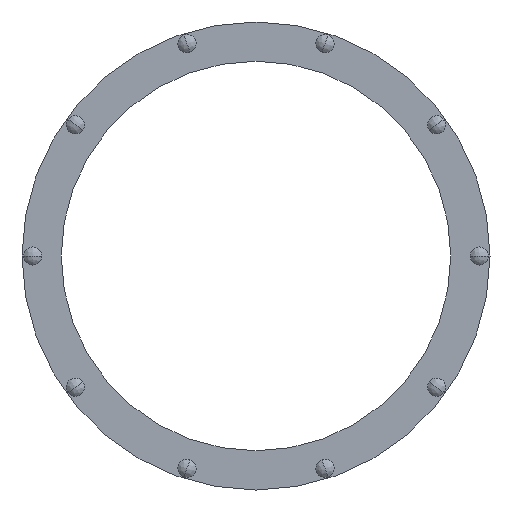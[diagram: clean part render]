
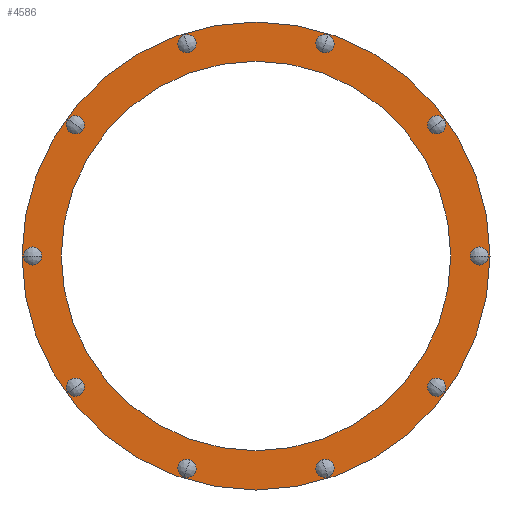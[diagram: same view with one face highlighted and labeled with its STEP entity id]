
A CAD part, front view. The second image highlights one B-rep face of the part: STEP entity #4586.
In plain terms, the highlighted planar face has unit normal (0, -1, 0).
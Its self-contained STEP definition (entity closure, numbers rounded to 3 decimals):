
#1613=CARTESIAN_POINT('',(0.,-151.,0.));
#1614=DIRECTION('',(0.,-1.,0.));
#1615=DIRECTION('',(-1.,0.,0.));
#1616=AXIS2_PLACEMENT_3D('',#1613,#1614,#1615);
#1622=CARTESIAN_POINT('',(0.,-151.,0.));
#1623=DIRECTION('',(0.,1.,0.));
#1624=DIRECTION('',(-1.,0.,0.));
#1625=AXIS2_PLACEMENT_3D('',#1622,#1623,#1624);
#1631=CARTESIAN_POINT('',(0.,-151.,0.));
#1632=DIRECTION('',(0.,-1.,0.));
#1633=DIRECTION('',(-1.,0.,0.));
#1634=AXIS2_PLACEMENT_3D('',#1631,#1632,#1633);
#1636=CARTESIAN_POINT('',(0.,-151.,0.));
#1637=DIRECTION('',(0.,1.,0.));
#1638=DIRECTION('',(-1.,0.,0.));
#1639=AXIS2_PLACEMENT_3D('',#1636,#1637,#1638);
#1641=CARTESIAN_POINT('',(-313.,-151.,0.));
#1642=DIRECTION('',(0.,1.,0.));
#1643=DIRECTION('',(-1.,0.,0.));
#1644=AXIS2_PLACEMENT_3D('',#1641,#1642,#1643);
#1646=CARTESIAN_POINT('',(-313.,-151.,0.));
#1647=DIRECTION('',(0.,1.,0.));
#1648=DIRECTION('',(1.,0.,0.));
#1649=AXIS2_PLACEMENT_3D('',#1646,#1647,#1648);
#1651=CARTESIAN_POINT('',(-253.222,-151.,-183.977));
#1652=DIRECTION('',(0.,1.,0.));
#1653=DIRECTION('',(-0.809,0.,-0.588));
#1654=AXIS2_PLACEMENT_3D('',#1651,#1652,#1653);
#1656=CARTESIAN_POINT('',(-253.222,-151.,-183.977));
#1657=DIRECTION('',(0.,1.,0.));
#1658=DIRECTION('',(0.809,0.,0.588));
#1659=AXIS2_PLACEMENT_3D('',#1656,#1657,#1658);
#1661=CARTESIAN_POINT('',(-96.722,-151.,-297.681));
#1662=DIRECTION('',(0.,1.,0.));
#1663=DIRECTION('',(-0.309,0.,-0.951));
#1664=AXIS2_PLACEMENT_3D('',#1661,#1662,#1663);
#1666=CARTESIAN_POINT('',(-96.722,-151.,-297.681));
#1667=DIRECTION('',(0.,1.,0.));
#1668=DIRECTION('',(0.309,0.,0.951));
#1669=AXIS2_PLACEMENT_3D('',#1666,#1667,#1668);
#1671=CARTESIAN_POINT('',(96.722,-151.,-297.681));
#1672=DIRECTION('',(0.,1.,0.));
#1673=DIRECTION('',(0.309,0.,-0.951));
#1674=AXIS2_PLACEMENT_3D('',#1671,#1672,#1673);
#1676=CARTESIAN_POINT('',(96.722,-151.,-297.681));
#1677=DIRECTION('',(0.,1.,0.));
#1678=DIRECTION('',(-0.309,0.,0.951));
#1679=AXIS2_PLACEMENT_3D('',#1676,#1677,#1678);
#1681=CARTESIAN_POINT('',(253.222,-151.,-183.977));
#1682=DIRECTION('',(0.,1.,0.));
#1683=DIRECTION('',(0.809,0.,-0.588));
#1684=AXIS2_PLACEMENT_3D('',#1681,#1682,#1683);
#1686=CARTESIAN_POINT('',(253.222,-151.,-183.977));
#1687=DIRECTION('',(0.,1.,0.));
#1688=DIRECTION('',(-0.809,0.,0.588));
#1689=AXIS2_PLACEMENT_3D('',#1686,#1687,#1688);
#1691=CARTESIAN_POINT('',(313.,-151.,0.));
#1692=DIRECTION('',(0.,1.,0.));
#1693=DIRECTION('',(1.,0.,0.));
#1694=AXIS2_PLACEMENT_3D('',#1691,#1692,#1693);
#1696=CARTESIAN_POINT('',(313.,-151.,0.));
#1697=DIRECTION('',(0.,1.,0.));
#1698=DIRECTION('',(-1.,0.,0.));
#1699=AXIS2_PLACEMENT_3D('',#1696,#1697,#1698);
#1701=CARTESIAN_POINT('',(253.222,-151.,183.977));
#1702=DIRECTION('',(0.,1.,0.));
#1703=DIRECTION('',(0.809,0.,0.588));
#1704=AXIS2_PLACEMENT_3D('',#1701,#1702,#1703);
#1706=CARTESIAN_POINT('',(253.222,-151.,183.977));
#1707=DIRECTION('',(0.,1.,0.));
#1708=DIRECTION('',(-0.809,0.,-0.588));
#1709=AXIS2_PLACEMENT_3D('',#1706,#1707,#1708);
#1711=CARTESIAN_POINT('',(96.722,-151.,297.681));
#1712=DIRECTION('',(0.,1.,0.));
#1713=DIRECTION('',(0.309,0.,0.951));
#1714=AXIS2_PLACEMENT_3D('',#1711,#1712,#1713);
#1716=CARTESIAN_POINT('',(96.722,-151.,297.681));
#1717=DIRECTION('',(0.,1.,0.));
#1718=DIRECTION('',(-0.309,0.,-0.951));
#1719=AXIS2_PLACEMENT_3D('',#1716,#1717,#1718);
#1721=CARTESIAN_POINT('',(-96.722,-151.,297.681));
#1722=DIRECTION('',(0.,1.,0.));
#1723=DIRECTION('',(-0.309,0.,0.951));
#1724=AXIS2_PLACEMENT_3D('',#1721,#1722,#1723);
#1726=CARTESIAN_POINT('',(-96.722,-151.,297.681));
#1727=DIRECTION('',(0.,1.,0.));
#1728=DIRECTION('',(0.309,0.,-0.951));
#1729=AXIS2_PLACEMENT_3D('',#1726,#1727,#1728);
#1731=CARTESIAN_POINT('',(-253.222,-151.,183.977));
#1732=DIRECTION('',(0.,1.,0.));
#1733=DIRECTION('',(-0.809,0.,0.588));
#1734=AXIS2_PLACEMENT_3D('',#1731,#1732,#1733);
#1736=CARTESIAN_POINT('',(-253.222,-151.,183.977));
#1737=DIRECTION('',(0.,1.,0.));
#1738=DIRECTION('',(0.809,0.,-0.588));
#1739=AXIS2_PLACEMENT_3D('',#1736,#1737,#1738);
#3239=CARTESIAN_POINT('',(-328.,-151.,0.));
#3241=VERTEX_POINT('',#3239);
#3242=CARTESIAN_POINT('',(-273.,-151.,0.));
#3244=VERTEX_POINT('',#3242);
#3257=CARTESIAN_POINT('',(328.,-151.,0.));
#3259=VERTEX_POINT('',#3257);
#3260=CARTESIAN_POINT('',(273.,-151.,0.));
#3262=VERTEX_POINT('',#3260);
#3330=CARTESIAN_POINT('',(-325.75,-151.,0.));
#3331=VERTEX_POINT('',#3330);
#3332=CARTESIAN_POINT('',(-300.25,-151.,0.));
#3333=VERTEX_POINT('',#3332);
#3372=CARTESIAN_POINT('',(-263.537,-151.,-191.471));
#3373=VERTEX_POINT('',#3372);
#3374=CARTESIAN_POINT('',(-242.907,-151.,-176.483));
#3375=VERTEX_POINT('',#3374);
#3414=CARTESIAN_POINT('',(-100.662,-151.,-309.807));
#3415=VERTEX_POINT('',#3414);
#3416=CARTESIAN_POINT('',(-92.782,-151.,-285.555));
#3417=VERTEX_POINT('',#3416);
#3456=CARTESIAN_POINT('',(100.662,-151.,-309.807));
#3457=VERTEX_POINT('',#3456);
#3458=CARTESIAN_POINT('',(92.782,-151.,-285.555));
#3459=VERTEX_POINT('',#3458);
#3498=CARTESIAN_POINT('',(263.537,-151.,-191.471));
#3499=VERTEX_POINT('',#3498);
#3500=CARTESIAN_POINT('',(242.907,-151.,-176.483));
#3501=VERTEX_POINT('',#3500);
#3540=CARTESIAN_POINT('',(325.75,-151.,0.));
#3541=VERTEX_POINT('',#3540);
#3542=CARTESIAN_POINT('',(300.25,-151.,0.));
#3543=VERTEX_POINT('',#3542);
#3602=CARTESIAN_POINT('',(263.537,-151.,191.471));
#3603=VERTEX_POINT('',#3602);
#3604=CARTESIAN_POINT('',(242.907,-151.,176.483));
#3605=VERTEX_POINT('',#3604);
#3644=CARTESIAN_POINT('',(100.662,-151.,309.807));
#3645=VERTEX_POINT('',#3644);
#3646=CARTESIAN_POINT('',(92.782,-151.,285.555));
#3647=VERTEX_POINT('',#3646);
#3686=CARTESIAN_POINT('',(-100.662,-151.,309.807));
#3687=VERTEX_POINT('',#3686);
#3688=CARTESIAN_POINT('',(-92.782,-151.,285.555));
#3689=VERTEX_POINT('',#3688);
#3728=CARTESIAN_POINT('',(-263.537,-151.,191.471));
#3729=VERTEX_POINT('',#3728);
#3730=CARTESIAN_POINT('',(-242.907,-151.,176.483));
#3731=VERTEX_POINT('',#3730);
#4511=CARTESIAN_POINT('',(0.,-151.,0.));
#4512=DIRECTION('',(0.,-1.,0.));
#4513=DIRECTION('',(-1.,0.,0.));
#4514=AXIS2_PLACEMENT_3D('',#4511,#4512,#4513);
#4515=PLANE('',#4514);
#4517=ORIENTED_EDGE('',*,*,#4516,.F.);
#4519=ORIENTED_EDGE('',*,*,#4518,.T.);
#4520=EDGE_LOOP('',(#4517,#4519));
#4521=FACE_OUTER_BOUND('',#4520,.F.);
#4522=ORIENTED_EDGE('',*,*,#4504,.F.);
#4523=ORIENTED_EDGE('',*,*,#4493,.T.);
#4524=EDGE_LOOP('',(#4522,#4523));
#4525=FACE_BOUND('',#4524,.F.);
#4527=ORIENTED_EDGE('',*,*,#4526,.F.);
#4529=ORIENTED_EDGE('',*,*,#4528,.F.);
#4530=EDGE_LOOP('',(#4527,#4529));
#4531=FACE_BOUND('',#4530,.F.);
#4533=ORIENTED_EDGE('',*,*,#4532,.F.);
#4535=ORIENTED_EDGE('',*,*,#4534,.F.);
#4536=EDGE_LOOP('',(#4533,#4535));
#4537=FACE_BOUND('',#4536,.F.);
#4539=ORIENTED_EDGE('',*,*,#4538,.F.);
#4541=ORIENTED_EDGE('',*,*,#4540,.F.);
#4542=EDGE_LOOP('',(#4539,#4541));
#4543=FACE_BOUND('',#4542,.F.);
#4545=ORIENTED_EDGE('',*,*,#4544,.F.);
#4547=ORIENTED_EDGE('',*,*,#4546,.F.);
#4548=EDGE_LOOP('',(#4545,#4547));
#4549=FACE_BOUND('',#4548,.F.);
#4551=ORIENTED_EDGE('',*,*,#4550,.F.);
#4553=ORIENTED_EDGE('',*,*,#4552,.F.);
#4554=EDGE_LOOP('',(#4551,#4553));
#4555=FACE_BOUND('',#4554,.F.);
#4557=ORIENTED_EDGE('',*,*,#4556,.F.);
#4559=ORIENTED_EDGE('',*,*,#4558,.F.);
#4560=EDGE_LOOP('',(#4557,#4559));
#4561=FACE_BOUND('',#4560,.F.);
#4563=ORIENTED_EDGE('',*,*,#4562,.F.);
#4565=ORIENTED_EDGE('',*,*,#4564,.F.);
#4566=EDGE_LOOP('',(#4563,#4565));
#4567=FACE_BOUND('',#4566,.F.);
#4569=ORIENTED_EDGE('',*,*,#4568,.F.);
#4571=ORIENTED_EDGE('',*,*,#4570,.F.);
#4572=EDGE_LOOP('',(#4569,#4571));
#4573=FACE_BOUND('',#4572,.F.);
#4575=ORIENTED_EDGE('',*,*,#4574,.F.);
#4577=ORIENTED_EDGE('',*,*,#4576,.F.);
#4578=EDGE_LOOP('',(#4575,#4577));
#4579=FACE_BOUND('',#4578,.F.);
#4581=ORIENTED_EDGE('',*,*,#4580,.F.);
#4583=ORIENTED_EDGE('',*,*,#4582,.F.);
#4584=EDGE_LOOP('',(#4581,#4583));
#4585=FACE_BOUND('',#4584,.F.);
#4586=ADVANCED_FACE('',(#4521,#4525,#4531,#4537,#4543,#4549,#4555,#4561,#4567,
#4573,#4579,#4585),#4515,.T.);
#1617=CIRCLE('',#1616,273.);
#1626=CIRCLE('',#1625,273.);
#1635=CIRCLE('',#1634,328.);
#1640=CIRCLE('',#1639,328.);
#1645=CIRCLE('',#1644,12.75);
#1650=CIRCLE('',#1649,12.75);
#1655=CIRCLE('',#1654,12.75);
#1660=CIRCLE('',#1659,12.75);
#1665=CIRCLE('',#1664,12.75);
#1670=CIRCLE('',#1669,12.75);
#1675=CIRCLE('',#1674,12.75);
#1680=CIRCLE('',#1679,12.75);
#1685=CIRCLE('',#1684,12.75);
#1690=CIRCLE('',#1689,12.75);
#1695=CIRCLE('',#1694,12.75);
#1700=CIRCLE('',#1699,12.75);
#1705=CIRCLE('',#1704,12.75);
#1710=CIRCLE('',#1709,12.75);
#1715=CIRCLE('',#1714,12.75);
#1720=CIRCLE('',#1719,12.75);
#1725=CIRCLE('',#1724,12.75);
#1730=CIRCLE('',#1729,12.75);
#1735=CIRCLE('',#1734,12.75);
#1740=CIRCLE('',#1739,12.75);
#4493=EDGE_CURVE('',#3244,#3262,#1617,.T.);
#4504=EDGE_CURVE('',#3244,#3262,#1626,.T.);
#4516=EDGE_CURVE('',#3241,#3259,#1635,.T.);
#4518=EDGE_CURVE('',#3241,#3259,#1640,.T.);
#4526=EDGE_CURVE('',#3331,#3333,#1645,.T.);
#4528=EDGE_CURVE('',#3333,#3331,#1650,.T.);
#4532=EDGE_CURVE('',#3373,#3375,#1655,.T.);
#4534=EDGE_CURVE('',#3375,#3373,#1660,.T.);
#4538=EDGE_CURVE('',#3415,#3417,#1665,.T.);
#4540=EDGE_CURVE('',#3417,#3415,#1670,.T.);
#4544=EDGE_CURVE('',#3457,#3459,#1675,.T.);
#4546=EDGE_CURVE('',#3459,#3457,#1680,.T.);
#4550=EDGE_CURVE('',#3499,#3501,#1685,.T.);
#4552=EDGE_CURVE('',#3501,#3499,#1690,.T.);
#4556=EDGE_CURVE('',#3541,#3543,#1695,.T.);
#4558=EDGE_CURVE('',#3543,#3541,#1700,.T.);
#4562=EDGE_CURVE('',#3603,#3605,#1705,.T.);
#4564=EDGE_CURVE('',#3605,#3603,#1710,.T.);
#4568=EDGE_CURVE('',#3645,#3647,#1715,.T.);
#4570=EDGE_CURVE('',#3647,#3645,#1720,.T.);
#4574=EDGE_CURVE('',#3687,#3689,#1725,.T.);
#4576=EDGE_CURVE('',#3689,#3687,#1730,.T.);
#4580=EDGE_CURVE('',#3729,#3731,#1735,.T.);
#4582=EDGE_CURVE('',#3731,#3729,#1740,.T.);
